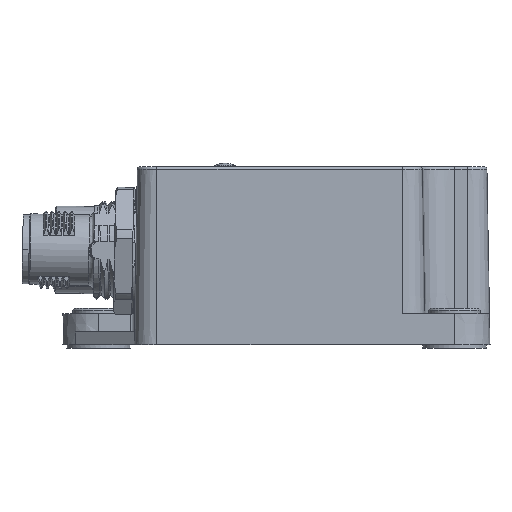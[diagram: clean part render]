
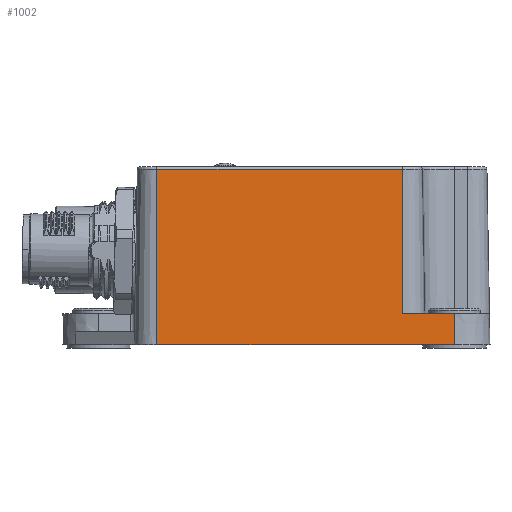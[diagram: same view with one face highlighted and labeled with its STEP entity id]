
A CAD part, front view. The second image highlights one B-rep face of the part: STEP entity #1002.
In plain terms, the highlighted planar face has unit normal (0, -1, 0.018).
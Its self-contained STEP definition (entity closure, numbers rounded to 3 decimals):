
#1002 = ADVANCED_FACE ( 'NONE', ( #19686 ), #45667, .T. ) ;
#2461 = DIRECTION ( 'NONE',  ( 0., 0.017, 1. ) ) ;
#2761 = DIRECTION ( 'NONE',  ( 1., 0., 0. ) ) ;
#2831 = CARTESIAN_POINT ( 'NONE',  ( 22.388, -26.854, 52.56 ) ) ;
#3596 = DIRECTION ( 'NONE',  ( -1., 0., 0. ) ) ;
#5727 = DIRECTION ( 'NONE',  ( 0., -1., 0.017 ) ) ;
#5763 = EDGE_CURVE ( 'NONE', #12940, #13758, #44577, .T. ) ;
#6265 = CARTESIAN_POINT ( 'NONE',  ( 22.388, -26.374, 80.06 ) ) ;
#7800 = CARTESIAN_POINT ( 'NONE',  ( 14.388, -26.381, 79.667 ) ) ;
#7897 = VERTEX_POINT ( 'NONE', #25148 ) ;
#8658 = ORIENTED_EDGE ( 'NONE', *, *, #46507, .T. ) ;
#8820 = EDGE_CURVE ( 'NONE', #34427, #56194, #49231, .T. ) ;
#9239 = ORIENTED_EDGE ( 'NONE', *, *, #22031, .T. ) ;
#9271 = CARTESIAN_POINT ( 'NONE',  ( 22.388, -26.374, 80.06 ) ) ;
#11232 = DIRECTION ( 'NONE',  ( 1., 0., 0. ) ) ;
#11626 = VECTOR ( 'NONE', #11232, 1000. ) ;
#12940 = VERTEX_POINT ( 'NONE', #20686 ) ;
#13758 = VERTEX_POINT ( 'NONE', #48191 ) ;
#14504 = DIRECTION ( 'NONE',  ( 0., -0.017, -1. ) ) ;
#15267 = CARTESIAN_POINT ( 'NONE',  ( 14.388, -26.374, 80.06 ) ) ;
#17869 = LINE ( 'NONE', #52841, #41637 ) ;
#18302 = DIRECTION ( 'NONE',  ( 0., -0.017, -1. ) ) ;
#19111 = DIRECTION ( 'NONE',  ( 0., -0.017, -1. ) ) ;
#19488 = VECTOR ( 'NONE', #2761, 1000. ) ;
#19686 = FACE_OUTER_BOUND ( 'NONE', #54208, .T. ) ;
#19712 = LINE ( 'NONE', #2831, #11626 ) ;
#20686 = CARTESIAN_POINT ( 'NONE',  ( -23.612, -26.381, 79.667 ) ) ;
#22031 = EDGE_CURVE ( 'NONE', #23061, #12940, #17869, .T. ) ;
#23061 = VERTEX_POINT ( 'NONE', #7800 ) ;
#24289 = CARTESIAN_POINT ( 'NONE',  ( 22.388, -26.77, 57.36 ) ) ;
#25148 = CARTESIAN_POINT ( 'NONE',  ( 14.388, -26.77, 57.36 ) ) ;
#26569 = CARTESIAN_POINT ( 'NONE',  ( 22.388, -26.854, 52.56 ) ) ;
#26778 = CARTESIAN_POINT ( 'NONE',  ( -23.612, -26.374, 80.06 ) ) ;
#33052 = LINE ( 'NONE', #24289, #19488 ) ;
#33063 = EDGE_CURVE ( 'NONE', #7897, #23061, #37158, .T. ) ;
#34427 = VERTEX_POINT ( 'NONE', #34441 ) ;
#34441 = CARTESIAN_POINT ( 'NONE',  ( 22.388, -26.77, 57.36 ) ) ;
#34957 = AXIS2_PLACEMENT_3D ( 'NONE', #6265, #5727, #19111 ) ;
#35477 = ORIENTED_EDGE ( 'NONE', *, *, #5763, .T. ) ;
#36405 = ORIENTED_EDGE ( 'NONE', *, *, #33063, .T. ) ;
#37158 = LINE ( 'NONE', #15267, #38063 ) ;
#38063 = VECTOR ( 'NONE', #2461, 1000. ) ;
#41637 = VECTOR ( 'NONE', #3596, 1000. ) ;
#41936 = VECTOR ( 'NONE', #18302, 1000. ) ;
#44577 = LINE ( 'NONE', #26778, #48550 ) ;
#45667 = PLANE ( 'NONE',  #34957 ) ;
#46507 = EDGE_CURVE ( 'NONE', #13758, #56194, #19712, .T. ) ;
#47055 = ORIENTED_EDGE ( 'NONE', *, *, #53591, .F. ) ;
#48191 = CARTESIAN_POINT ( 'NONE',  ( -23.612, -26.854, 52.56 ) ) ;
#48550 = VECTOR ( 'NONE', #14504, 1000. ) ;
#49231 = LINE ( 'NONE', #9271, #41936 ) ;
#51212 = ORIENTED_EDGE ( 'NONE', *, *, #8820, .F. ) ;
#52841 = CARTESIAN_POINT ( 'NONE',  ( -23.612, -26.381, 79.667 ) ) ;
#53591 = EDGE_CURVE ( 'NONE', #7897, #34427, #33052, .T. ) ;
#54208 = EDGE_LOOP ( 'NONE', ( #36405, #9239, #35477, #8658, #51212, #47055 ) ) ;
#56194 = VERTEX_POINT ( 'NONE', #26569 ) ;
